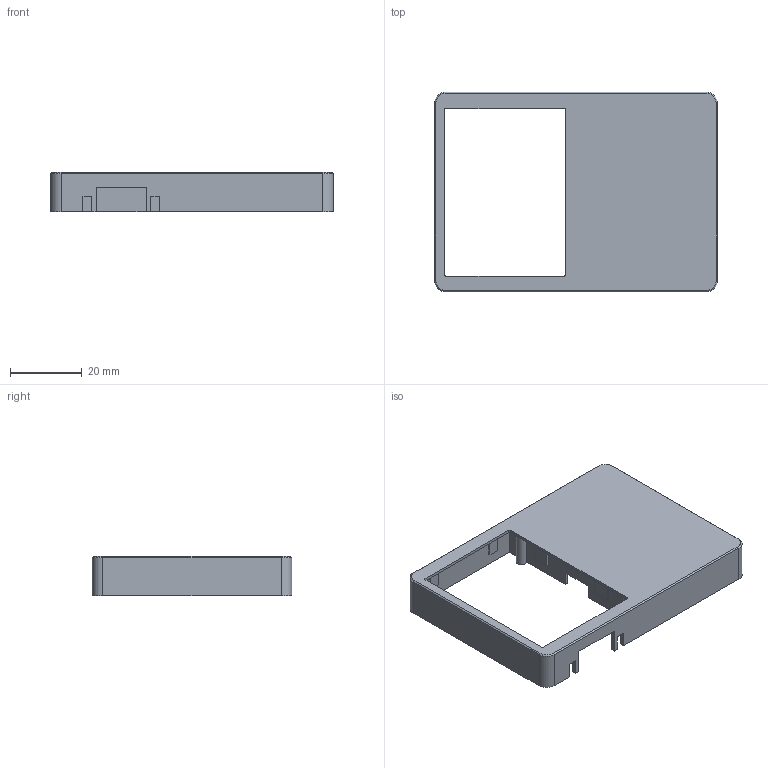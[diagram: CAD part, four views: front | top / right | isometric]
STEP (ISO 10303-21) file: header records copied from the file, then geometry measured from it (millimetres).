
FILE_DESCRIPTION(('Open CASCADE Model'),'2;1');
FILE_NAME('Open CASCADE Shape Model','2026-11-21T21:44:31',('Author'),( 'Open CASCADE'),'Open CASCADE STEP processor 7.9','Open CASCADE 7.9' ,'Unknown');
FILE_SCHEMA(('AUTOMOTIVE_DESIGN { 1 0 10303 214 1 1 1 1 }'));
Length unit declared in the file: millimetre
Products named in the file (1): Open CASCADE STEP translator 7.9 1
Bounding box: 79 x 55.8 x 11 mm (x, y, z)
Volume: 6158.5 mm3; surface area: 13592 mm2
Topology: 1 solids, 1 shells, 174 faces, 454 edges, 300 vertices
Faces by surface type: plane 122, cylinder 48, cone 4
Full cylindrical faces by diameter (mm): 1.2 x2
Entity records: 11392 total; most frequent: CARTESIAN_POINT 2161, DIRECTION 1758, LINE 1166, VECTOR 1166, ORIENTED_EDGE 908, PCURVE 908, DEFINITIONAL_REPRESENTATION 908, EDGE_CURVE 454
